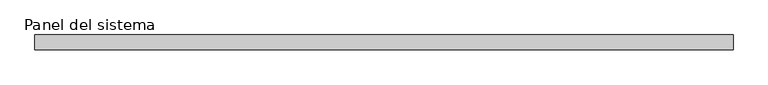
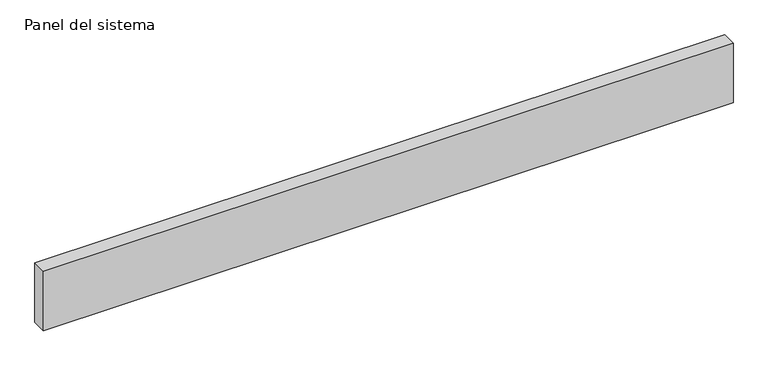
"""IFC4 building model written with IfcOpenShell, lengths in millimetres: plate geometry, Panel del sistema : HIANSA - CHAPA PERFILADA CUBIERTA - BANDEJA 90.380 Hor."""

from ifc_helpers import new_model, si_unit, origin, origin_with_axes, place, context, project, spatial, polyline, outline, extrude, source, transform, mapped, element, save


def panel_del_sistema_86ecf21b(model_context):
    return source(origin(), model_context, "Body", "SweptSolid", [
        extrude(outline(polyline([(2090.0, -90.0), (-2090.0, -90.0), (-2090.0, 0.0), (2090.0, 0.0), (2090.0, -90.0)])), origin_with_axes(), (0.0, 0.0, 1.0), 380.0),
    ])


if __name__ == "__main__":
    model = new_model("IFC4")
    model_context = context("Model", 3, world=origin())
    ifc_project = project(units=[si_unit("LENGTHUNIT", "METRE", prefix="MILLI")], contexts=[model_context])
    site = spatial("IfcSite", under=ifc_project)
    building = spatial("IfcBuilding", under=site)
    placement = place(None, origin())
    panel_del_sistema_shape = panel_del_sistema_86ecf21b(model_context)
    element("IfcPlate", 1, ObjectType="Panel del sistema : HIANSA - CHAPA PERFILADA CUBIERTA - BANDEJA 90.380 Hor", at=placement, inside=building, context=model_context, shape_type="MappedRepresentation", body=[
        mapped(panel_del_sistema_shape, transform((0.0, 0.0, 0.0), x_axis=(1.0, 0.0, 0.0), y_axis=(0.0, 1.0, 0.0), z_axis=(0.0, 0.0, 1.0))),
    ])
    save(model, "model.ifc")
